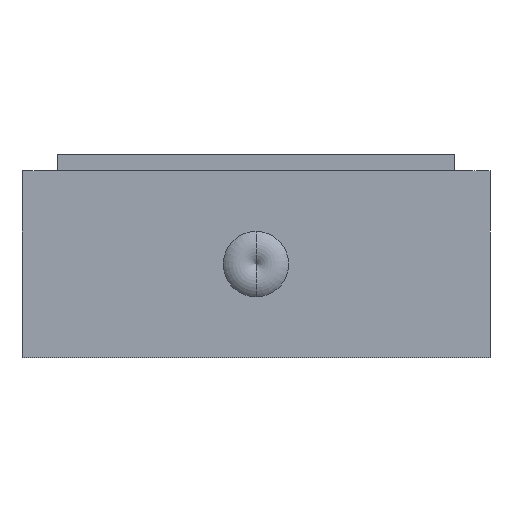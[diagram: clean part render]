
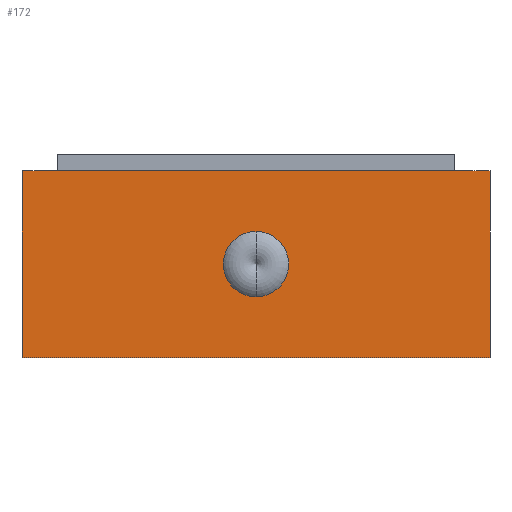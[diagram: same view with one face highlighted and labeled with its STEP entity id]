
A CAD part, front view. The second image highlights one B-rep face of the part: STEP entity #172.
In plain terms, the highlighted planar face has unit normal (0, -1, 0).
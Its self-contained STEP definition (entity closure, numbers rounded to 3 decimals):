
#2 = VERTEX_POINT ( 'NONE', #6862 ) ;
#55 = VERTEX_POINT ( 'NONE', #7062 ) ;
#89 = EDGE_LOOP ( 'NONE', ( #90, #91, #94, #155 ) ) ;
#90 = ORIENTED_EDGE ( 'NONE', *, *, #112, .F. ) ;
#91 = ORIENTED_EDGE ( 'NONE', *, *, #92, .F. ) ;
#92 = EDGE_CURVE ( 'NONE', #93, #55, #7125, .T. ) ;
#93 = VERTEX_POINT ( 'NONE', #7180 ) ;
#94 = ORIENTED_EDGE ( 'NONE', *, *, #95, .T. ) ;
#95 = EDGE_CURVE ( 'NONE', #93, #96, #7179, .T. ) ;
#96 = VERTEX_POINT ( 'NONE', #7175 ) ;
#112 = EDGE_CURVE ( 'NONE', #55, #113, #7152, .T. ) ;
#113 = VERTEX_POINT ( 'NONE', #7210 ) ;
#155 = ORIENTED_EDGE ( 'NONE', *, *, #156, .T. ) ;
#156 = EDGE_CURVE ( 'NONE', #96, #113, #7292, .T. ) ;
#157 = EDGE_LOOP ( 'NONE', ( #158, #159 ) ) ;
#158 = ORIENTED_EDGE ( 'NONE', *, *, #26032, .T. ) ;
#159 = ORIENTED_EDGE ( 'NONE', *, *, #160, .T. ) ;
#160 = EDGE_CURVE ( 'NONE', #2, #21962, #7287, .T. ) ;
#172 = ADVANCED_FACE ( 'NONE', ( #7303, #7356 ), #7340, .T. ) ;
#6862 = CARTESIAN_POINT ( 'NONE',  ( 0., -49.086, -10.798 ) ) ;
#7062 = CARTESIAN_POINT ( 'NONE',  ( -20.035, -49.086, 0. ) ) ;
#7122 = DIRECTION ( 'NONE',  ( 0., 0., 1. ) ) ;
#7123 = VECTOR ( 'NONE', #7122, 1000. ) ;
#7124 = CARTESIAN_POINT ( 'NONE',  ( -20.035, -49.086, -16.002 ) ) ;
#7125 = LINE ( 'NONE', #7124, #7123 ) ;
#7150 = VECTOR ( 'NONE', #7211, 1000. ) ;
#7151 = CARTESIAN_POINT ( 'NONE',  ( -20.035, -49.086, 0. ) ) ;
#7152 = LINE ( 'NONE', #7151, #7150 ) ;
#7175 = CARTESIAN_POINT ( 'NONE',  ( 20.035, -49.086, -16.002 ) ) ;
#7176 = DIRECTION ( 'NONE',  ( 1., 0., 0. ) ) ;
#7177 = VECTOR ( 'NONE', #7176, 1000. ) ;
#7178 = CARTESIAN_POINT ( 'NONE',  ( -20.035, -49.086, -16.002 ) ) ;
#7179 = LINE ( 'NONE', #7178, #7177 ) ;
#7180 = CARTESIAN_POINT ( 'NONE',  ( -20.035, -49.086, -16.002 ) ) ;
#7210 = CARTESIAN_POINT ( 'NONE',  ( 20.035, -49.086, 0. ) ) ;
#7211 = DIRECTION ( 'NONE',  ( 1., 0., 0. ) ) ;
#7283 = DIRECTION ( 'NONE',  ( 0., 0., 1. ) ) ;
#7284 = DIRECTION ( 'NONE',  ( 0., 1., 0. ) ) ;
#7285 = CARTESIAN_POINT ( 'NONE',  ( 0., -49.086, -8.001 ) ) ;
#7286 = AXIS2_PLACEMENT_3D ( 'NONE', #7285, #7284, #7283 ) ;
#7287 = CIRCLE ( 'NONE', #7286, 2.797 ) ;
#7289 = DIRECTION ( 'NONE',  ( 0., 0., 1. ) ) ;
#7290 = VECTOR ( 'NONE', #7289, 1000. ) ;
#7291 = CARTESIAN_POINT ( 'NONE',  ( 20.035, -49.086, -16.002 ) ) ;
#7292 = LINE ( 'NONE', #7291, #7290 ) ;
#7303 = FACE_OUTER_BOUND ( 'NONE', #89, .T. ) ;
#7335 = DIRECTION ( 'NONE',  ( 0., 0., -1. ) ) ;
#7336 = DIRECTION ( 'NONE',  ( 0., -1., 0. ) ) ;
#7337 = CARTESIAN_POINT ( 'NONE',  ( -20.035, -49.086, -16.002 ) ) ;
#7338 = AXIS2_PLACEMENT_3D ( 'NONE', #7337, #7336, #7335 ) ;
#7340 = PLANE ( 'NONE',  #7338 ) ;
#7356 = FACE_BOUND ( 'NONE', #157, .T. ) ;
#21962 = VERTEX_POINT ( 'NONE', #25998 ) ;
#25993 = DIRECTION ( 'NONE',  ( 0., 0., 1. ) ) ;
#25994 = DIRECTION ( 'NONE',  ( 0., 1., 0. ) ) ;
#25995 = CARTESIAN_POINT ( 'NONE',  ( 0., -49.086, -8.001 ) ) ;
#25996 = AXIS2_PLACEMENT_3D ( 'NONE', #25995, #25994, #25993 ) ;
#25997 = CIRCLE ( 'NONE', #25996, 2.797 ) ;
#25998 = CARTESIAN_POINT ( 'NONE',  ( 0., -49.086, -5.204 ) ) ;
#26032 = EDGE_CURVE ( 'NONE', #21962, #2, #25997, .T. ) ;
